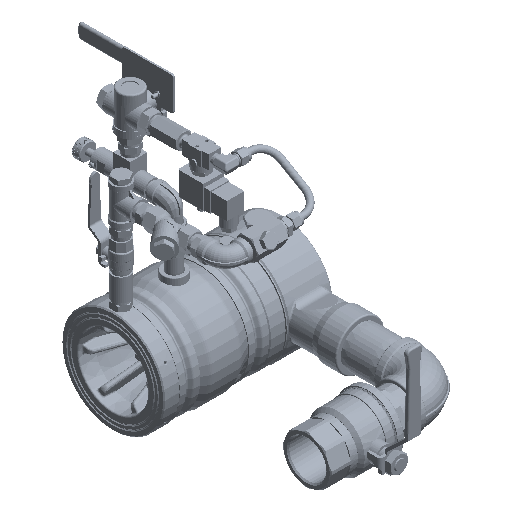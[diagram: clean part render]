
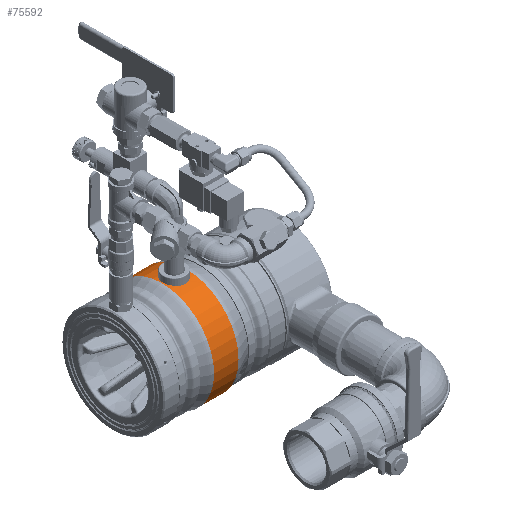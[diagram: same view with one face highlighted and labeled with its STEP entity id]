
A CAD part, isometric view. The second image highlights one B-rep face of the part: STEP entity #75592.
In plain terms, the highlighted cylindrical face has radius 79.5 mm (diameter 159 mm), a full revolution.
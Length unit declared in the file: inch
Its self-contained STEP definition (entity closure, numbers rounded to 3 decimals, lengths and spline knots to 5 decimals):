
#3878=B_SPLINE_CURVE_WITH_KNOTS('',3,(#123555,#123556,#123557,#123558,#123559,
#123560,#123561,#123562,#123563,#123564,#123565,#123566,#123567,#123568,
#123569,#123570,#123571,#123572,#123573,#123574,#123575,#123576,#123577,
#123578,#123579,#123580),.UNSPECIFIED.,.F.,.F.,(4,2,2,2,2,2,2,2,2,2,2,2,
4),(2.26597,2.54921,2.83245,3.39893,
3.96544,4.24869,4.53194,4.81519,5.09845,
5.66495,6.23143,6.51467,6.79791),
 .UNSPECIFIED.);
#3879=B_SPLINE_CURVE_WITH_KNOTS('',3,(#123581,#123582,#123583,#123584,#123585,
#123586,#123587,#123588,#123589,#123590,#123591,#123592,#123593,#123594,
#123595,#123596,#123597,#123598,#123599,#123600,#123601,#123602,#123603,
#123604,#123605,#123606,#123607),.UNSPECIFIED.,.F.,.F.,(4,2,2,2,2,2,3,2,
2,2,2,2,4),(6.79791,7.08115,7.36439,7.93087,
8.49738,8.78063,9.06388,9.34713,9.63039,
10.19689,10.76337,11.04661,11.32985),
 .UNSPECIFIED.);
#16817=FACE_BOUND('',#24321,.T.);
#16818=FACE_BOUND('',#24322,.T.);
#19214=FACE_OUTER_BOUND('',#24320,.T.);
#24320=EDGE_LOOP('',(#54842));
#24321=EDGE_LOOP('',(#54843,#54844));
#24322=EDGE_LOOP('',(#54845));
#28811=CIRCLE('',#81197,3.12992);
#28812=CIRCLE('',#81199,3.12992);
#32312=VERTEX_POINT('',#123553);
#32313=VERTEX_POINT('',#123554);
#32329=VERTEX_POINT('',#123700);
#32330=VERTEX_POINT('',#123703);
#40548=EDGE_CURVE('',#32312,#32313,#3878,.T.);
#40549=EDGE_CURVE('',#32313,#32312,#3879,.T.);
#40565=EDGE_CURVE('',#32329,#32329,#28811,.T.);
#40566=EDGE_CURVE('',#32330,#32330,#28812,.T.);
#54842=ORIENTED_EDGE('',*,*,#40565,.T.);
#54843=ORIENTED_EDGE('',*,*,#40548,.T.);
#54844=ORIENTED_EDGE('',*,*,#40549,.T.);
#54845=ORIENTED_EDGE('',*,*,#40566,.F.);
#68597=CYLINDRICAL_SURFACE('',#81198,3.12992);
#75592=ADVANCED_FACE('',(#19214,#16817,#16818),#68597,.T.);
#81197=AXIS2_PLACEMENT_3D('',#123701,#95310,#95311);
#81198=AXIS2_PLACEMENT_3D('',#123702,#95312,#95313);
#81199=AXIS2_PLACEMENT_3D('',#123704,#95314,#95315);
#95310=DIRECTION('center_axis',(1.,0.,0.));
#95311=DIRECTION('ref_axis',(0.,1.,0.));
#95312=DIRECTION('center_axis',(1.,0.,0.));
#95313=DIRECTION('ref_axis',(0.,1.,0.));
#95314=DIRECTION('center_axis',(1.,0.,0.));
#95315=DIRECTION('ref_axis',(0.,1.,0.));
#123553=CARTESIAN_POINT('',(-0.44689,0.06649,2.36219));
#123554=CARTESIAN_POINT('',(0.73422,0.06649,2.36219));
#123555=CARTESIAN_POINT('Ctrl Pts',(-0.44689,0.06649,
2.36219));
#123556=CARTESIAN_POINT('Ctrl Pts',(-0.44689,0.10366,
2.36219));
#123557=CARTESIAN_POINT('Ctrl Pts',(-0.44332,0.14208,
2.36151));
#123558=CARTESIAN_POINT('Ctrl Pts',(-0.42833,0.21843,
2.35873));
#123559=CARTESIAN_POINT('Ctrl Pts',(-0.41691,0.25637,
2.35664));
#123560=CARTESIAN_POINT('Ctrl Pts',(-0.37167,0.36546,
2.34873));
#123561=CARTESIAN_POINT('Ctrl Pts',(-0.32625,0.43174,
2.34125));
#123562=CARTESIAN_POINT('Ctrl Pts',(-0.22159,0.53641,
2.32716));
#123563=CARTESIAN_POINT('Ctrl Pts',(-0.1553,0.58183,
2.31962));
#123564=CARTESIAN_POINT('Ctrl Pts',(-0.04622,0.62707,
2.31162));
#123565=CARTESIAN_POINT('Ctrl Pts',(-0.00827,0.63849,
2.30949));
#123566=CARTESIAN_POINT('Ctrl Pts',(0.06808,0.65348,
2.30666));
#123567=CARTESIAN_POINT('Ctrl Pts',(0.10649,0.65704,
2.30597));
#123568=CARTESIAN_POINT('Ctrl Pts',(0.18084,0.65704,2.30597));
#123569=CARTESIAN_POINT('Ctrl Pts',(0.21925,0.65348,
2.30666));
#123570=CARTESIAN_POINT('Ctrl Pts',(0.2956,0.63849,
2.30949));
#123571=CARTESIAN_POINT('Ctrl Pts',(0.33354,0.62707,
2.31162));
#123572=CARTESIAN_POINT('Ctrl Pts',(0.44263,0.58183,
2.31962));
#123573=CARTESIAN_POINT('Ctrl Pts',(0.50891,0.53641,
2.32716));
#123574=CARTESIAN_POINT('Ctrl Pts',(0.61358,0.43174,
2.34125));
#123575=CARTESIAN_POINT('Ctrl Pts',(0.659,0.36546,2.34873));
#123576=CARTESIAN_POINT('Ctrl Pts',(0.70424,0.25637,
2.35664));
#123577=CARTESIAN_POINT('Ctrl Pts',(0.71566,0.21843,
2.35873));
#123578=CARTESIAN_POINT('Ctrl Pts',(0.73065,0.14208,
2.36151));
#123579=CARTESIAN_POINT('Ctrl Pts',(0.73422,0.10366,
2.36219));
#123580=CARTESIAN_POINT('Ctrl Pts',(0.73422,0.06649,
2.36219));
#123581=CARTESIAN_POINT('Ctrl Pts',(0.73422,0.06649,
2.36219));
#123582=CARTESIAN_POINT('Ctrl Pts',(0.73422,0.02932,
2.36219));
#123583=CARTESIAN_POINT('Ctrl Pts',(0.73065,-0.00909,
2.36151));
#123584=CARTESIAN_POINT('Ctrl Pts',(0.71566,-0.08544,
2.35873));
#123585=CARTESIAN_POINT('Ctrl Pts',(0.70424,-0.12339,
2.35664));
#123586=CARTESIAN_POINT('Ctrl Pts',(0.659,-0.23247,
2.34873));
#123587=CARTESIAN_POINT('Ctrl Pts',(0.61358,-0.29876,
2.34125));
#123588=CARTESIAN_POINT('Ctrl Pts',(0.50891,-0.40342,
2.32716));
#123589=CARTESIAN_POINT('Ctrl Pts',(0.44263,-0.44884,
2.31962));
#123590=CARTESIAN_POINT('Ctrl Pts',(0.33354,-0.49408,
2.31162));
#123591=CARTESIAN_POINT('Ctrl Pts',(0.2956,-0.5055,
2.30949));
#123592=CARTESIAN_POINT('Ctrl Pts',(0.21925,-0.52049,
2.30666));
#123593=CARTESIAN_POINT('Ctrl Pts',(0.18084,-0.52406,
2.30597));
#123594=CARTESIAN_POINT('Ctrl Pts',(0.14366,-0.52406,
2.30597));
#123595=CARTESIAN_POINT('Ctrl Pts',(0.10649,-0.52406,
2.30597));
#123596=CARTESIAN_POINT('Ctrl Pts',(0.06808,-0.52049,
2.30666));
#123597=CARTESIAN_POINT('Ctrl Pts',(-0.00827,-0.5055,
2.30949));
#123598=CARTESIAN_POINT('Ctrl Pts',(-0.04622,-0.49408,
2.31162));
#123599=CARTESIAN_POINT('Ctrl Pts',(-0.1553,-0.44884,
2.31962));
#123600=CARTESIAN_POINT('Ctrl Pts',(-0.22159,-0.40342,
2.32716));
#123601=CARTESIAN_POINT('Ctrl Pts',(-0.32625,-0.29876,
2.34125));
#123602=CARTESIAN_POINT('Ctrl Pts',(-0.37167,-0.23247,
2.34873));
#123603=CARTESIAN_POINT('Ctrl Pts',(-0.41691,-0.12339,
2.35664));
#123604=CARTESIAN_POINT('Ctrl Pts',(-0.42833,-0.08544,
2.35873));
#123605=CARTESIAN_POINT('Ctrl Pts',(-0.44332,-0.00909,
2.36151));
#123606=CARTESIAN_POINT('Ctrl Pts',(-0.44689,0.02932,
2.36219));
#123607=CARTESIAN_POINT('Ctrl Pts',(-0.44689,0.06649,
2.36219));
#123700=CARTESIAN_POINT('',(-0.58711,3.19641,-0.76773));
#123701=CARTESIAN_POINT('Origin',(-0.58711,0.06649,
-0.76773));
#123702=CARTESIAN_POINT('Origin',(0.50905,0.06649,-0.76773));
#123703=CARTESIAN_POINT('',(0.87444,3.19641,-0.76773));
#123704=CARTESIAN_POINT('Origin',(0.87444,0.06649,-0.76773));
